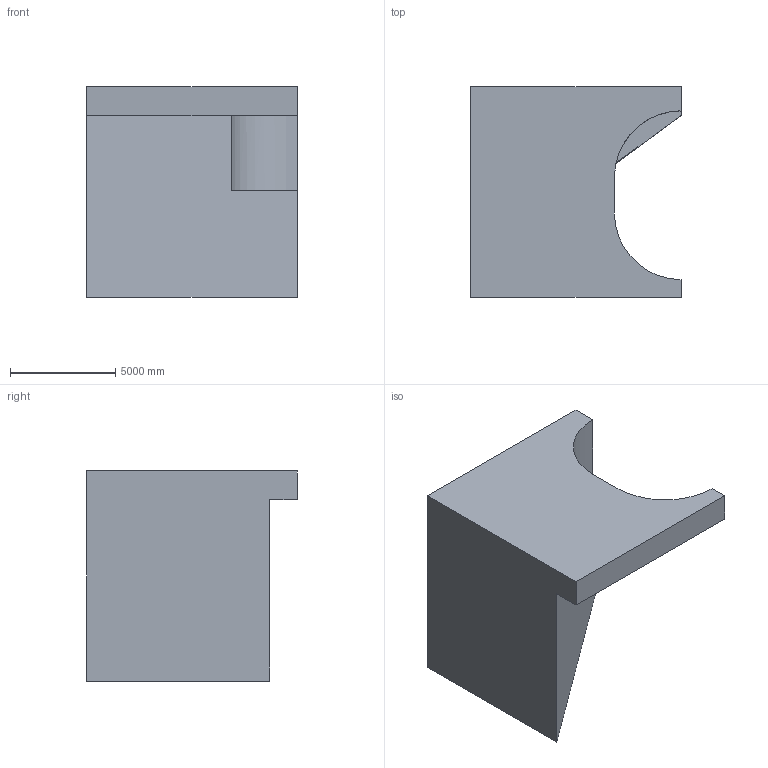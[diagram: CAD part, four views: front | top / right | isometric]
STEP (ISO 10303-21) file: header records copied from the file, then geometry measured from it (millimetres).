
FILE_DESCRIPTION (( 'STEP AP203' ), '1' );
FILE_NAME ('210.STEP', '2022-09-07T12:18:11', ( 'user' ), ( '' ), 'SwSTEP 2.0', 'SolidWorks 2021', '' );
FILE_SCHEMA (( 'CONFIG_CONTROL_DESIGN' ));
Length unit declared in the file: centimetre
Products named in the file (1): 210
Bounding box: 10000 x 10000 x 10000 mm (x, y, z)
Volume: 533277877600.4 mm3; surface area: 502809906.1 mm2
Topology: 1 solids, 1 shells, 13 faces, 33 edges, 22 vertices
Faces by surface type: plane 11, cylinder 2
Entity records: 469 total; most frequent: CARTESIAN_POINT 69, ORIENTED_EDGE 66, DIRECTION 66, EDGE_CURVE 33, VECTOR 28, LINE 28, VERTEX_POINT 22, AXIS2_PLACEMENT_3D 19
